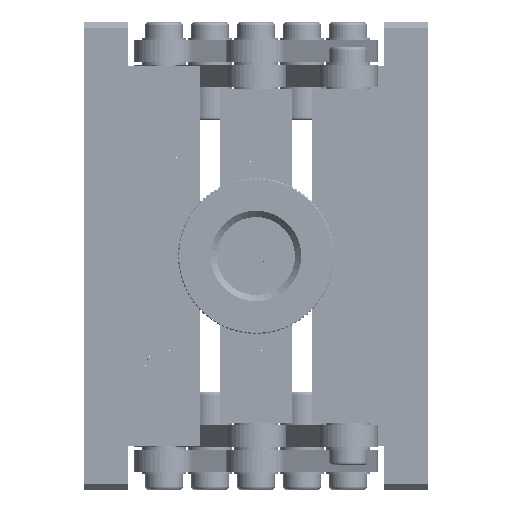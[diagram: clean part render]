
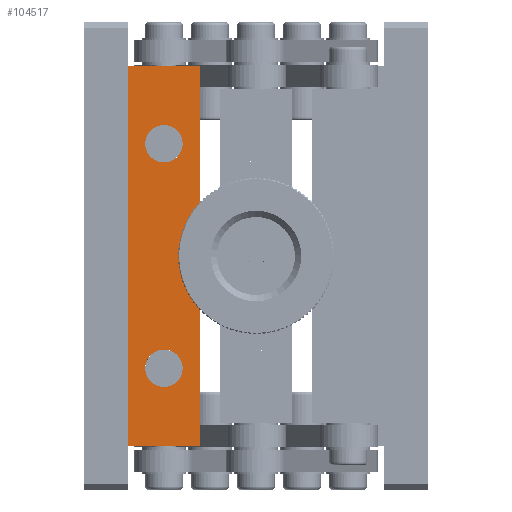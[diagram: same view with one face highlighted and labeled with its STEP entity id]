
A CAD part, left-side view. The second image highlights one B-rep face of the part: STEP entity #104517.
In plain terms, the highlighted planar face has unit normal (-1, 0, 0).
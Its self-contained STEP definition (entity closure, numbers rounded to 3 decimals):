
#217 = LINE ( 'NONE', #184210, #13126 ) ;
#2952 = VERTEX_POINT ( 'NONE', #176911 ) ;
#4207 = CARTESIAN_POINT ( 'NONE',  ( -212.612, 13.585, 2.218 ) ) ;
#9380 = AXIS2_PLACEMENT_3D ( 'NONE', #177937, #176853, #173668 ) ;
#13126 = VECTOR ( 'NONE', #116737, 1000. ) ;
#18760 = CIRCLE ( 'NONE', #98794, 6. ) ;
#25885 = CARTESIAN_POINT ( 'NONE',  ( -212.612, 2.085, -88.782 ) ) ;
#30592 = FACE_BOUND ( 'NONE', #100883, .T. ) ;
#41463 = ORIENTED_EDGE ( 'NONE', *, *, #64230, .T. ) ;
#44060 = VERTEX_POINT ( 'NONE', #115214 ) ;
#44789 = CARTESIAN_POINT ( 'NONE',  ( -212.612, -9.415, 2.218 ) ) ;
#50433 = CARTESIAN_POINT ( 'NONE',  ( -212.612, -9.415, 2.218 ) ) ;
#64230 = EDGE_CURVE ( 'NONE', #195355, #44060, #153346, .T. ) ;
#67647 = VECTOR ( 'NONE', #108717, 1000. ) ;
#69507 = DIRECTION ( 'NONE',  ( 0., 0., -1. ) ) ;
#76376 = FACE_BOUND ( 'NONE', #207540, .T. ) ;
#83828 = ORIENTED_EDGE ( 'NONE', *, *, #164977, .T. ) ;
#90184 = CARTESIAN_POINT ( 'NONE',  ( -212.612, 13.585, 2.218 ) ) ;
#94858 = FACE_OUTER_BOUND ( 'NONE', #118726, .T. ) ;
#96997 = DIRECTION ( 'NONE',  ( 1., 0., 0. ) ) ;
#98794 = AXIS2_PLACEMENT_3D ( 'NONE', #168354, #203223, #119380 ) ;
#100883 = EDGE_LOOP ( 'NONE', ( #83828 ) ) ;
#101441 = CARTESIAN_POINT ( 'NONE',  ( -212.612, -9.415, -119.782 ) ) ;
#101609 = DIRECTION ( 'NONE',  ( 0., 1., 0. ) ) ;
#103604 = LINE ( 'NONE', #101441, #67647 ) ;
#104517 = ADVANCED_FACE ( 'NONE', ( #30592, #76376, #94858 ), #126463, .F. ) ;
#108717 = DIRECTION ( 'NONE',  ( 0., 1., 0. ) ) ;
#110099 = CIRCLE ( 'NONE', #9380, 6. ) ;
#115214 = CARTESIAN_POINT ( 'NONE',  ( -212.612, 13.585, -119.782 ) ) ;
#116737 = DIRECTION ( 'NONE',  ( 0., 0., -1. ) ) ;
#118726 = EDGE_LOOP ( 'NONE', ( #41463, #135669, #176634, #168938 ) ) ;
#119380 = DIRECTION ( 'NONE',  ( 0., 0., 1. ) ) ;
#126463 = PLANE ( 'NONE',  #161900 ) ;
#130553 = EDGE_CURVE ( 'NONE', #149783, #149783, #110099, .T. ) ;
#133429 = CARTESIAN_POINT ( 'NONE',  ( -212.612, 2.085, -16.782 ) ) ;
#135669 = ORIENTED_EDGE ( 'NONE', *, *, #181672, .F. ) ;
#142416 = ORIENTED_EDGE ( 'NONE', *, *, #130553, .T. ) ;
#146305 = LINE ( 'NONE', #50433, #191844 ) ;
#148939 = EDGE_CURVE ( 'NONE', #2952, #195355, #146305, .T. ) ;
#149783 = VERTEX_POINT ( 'NONE', #133429 ) ;
#153346 = LINE ( 'NONE', #4207, #170646 ) ;
#154966 = CARTESIAN_POINT ( 'NONE',  ( -212.612, -9.415, -119.782 ) ) ;
#159344 = VERTEX_POINT ( 'NONE', #154966 ) ;
#161900 = AXIS2_PLACEMENT_3D ( 'NONE', #44789, #96997, #197160 ) ;
#164977 = EDGE_CURVE ( 'NONE', #178226, #178226, #18760, .T. ) ;
#168354 = CARTESIAN_POINT ( 'NONE',  ( -212.612, 2.085, -94.782 ) ) ;
#168938 = ORIENTED_EDGE ( 'NONE', *, *, #148939, .T. ) ;
#169587 = EDGE_CURVE ( 'NONE', #2952, #159344, #217, .T. ) ;
#170646 = VECTOR ( 'NONE', #69507, 1000. ) ;
#173668 = DIRECTION ( 'NONE',  ( 0., 0., 1. ) ) ;
#176634 = ORIENTED_EDGE ( 'NONE', *, *, #169587, .F. ) ;
#176853 = DIRECTION ( 'NONE',  ( 1., 0., 0. ) ) ;
#176911 = CARTESIAN_POINT ( 'NONE',  ( -212.612, -9.415, 2.218 ) ) ;
#177937 = CARTESIAN_POINT ( 'NONE',  ( -212.612, 2.085, -22.782 ) ) ;
#178226 = VERTEX_POINT ( 'NONE', #25885 ) ;
#181672 = EDGE_CURVE ( 'NONE', #159344, #44060, #103604, .T. ) ;
#184210 = CARTESIAN_POINT ( 'NONE',  ( -212.612, -9.415, 2.218 ) ) ;
#191844 = VECTOR ( 'NONE', #101609, 1000. ) ;
#195355 = VERTEX_POINT ( 'NONE', #90184 ) ;
#197160 = DIRECTION ( 'NONE',  ( 0., 0., 1. ) ) ;
#203223 = DIRECTION ( 'NONE',  ( 1., 0., 0. ) ) ;
#207540 = EDGE_LOOP ( 'NONE', ( #142416 ) ) ;
